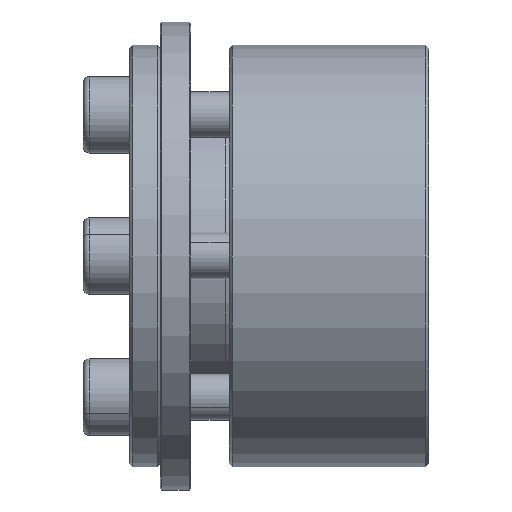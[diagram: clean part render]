
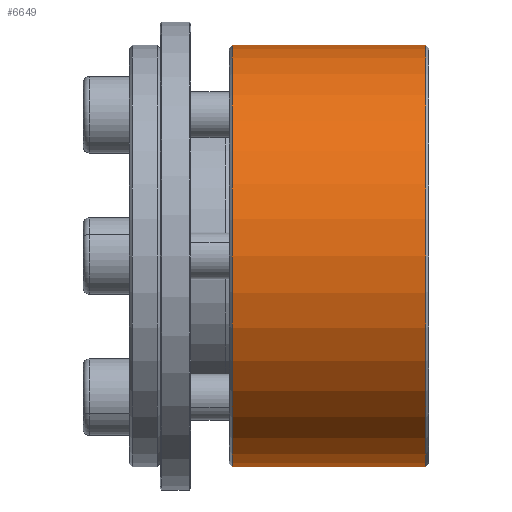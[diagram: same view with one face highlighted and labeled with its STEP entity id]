
A CAD part, front view. The second image highlights one B-rep face of the part: STEP entity #6649.
In plain terms, the highlighted cylindrical face has radius 27.46 mm (diameter 54.92 mm), a partial arc.
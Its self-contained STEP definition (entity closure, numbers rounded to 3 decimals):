
#420 = CARTESIAN_POINT ( 'NONE',  ( -92.366, 26.04, 27.46 ) ) ;
#855 = LINE ( 'NONE', #3658, #6225 ) ;
#1416 = EDGE_CURVE ( 'NONE', #3253, #4748, #2716, .T. ) ;
#1439 = DIRECTION ( 'NONE',  ( 1., 0., 0. ) ) ;
#1558 = EDGE_CURVE ( 'NONE', #4403, #3253, #2747, .T. ) ;
#1939 = ORIENTED_EDGE ( 'NONE', *, *, #6390, .T. ) ;
#2045 = DIRECTION ( 'NONE',  ( 0., 0., 1. ) ) ;
#2094 = ORIENTED_EDGE ( 'NONE', *, *, #1558, .T. ) ;
#2378 = CIRCLE ( 'NONE', #4304, 27.46 ) ;
#2604 = CYLINDRICAL_SURFACE ( 'NONE', #5280, 27.46 ) ;
#2686 = ORIENTED_EDGE ( 'NONE', *, *, #1416, .T. ) ;
#2716 = CIRCLE ( 'NONE', #5376, 27.46 ) ;
#2747 = LINE ( 'NONE', #3431, #4531 ) ;
#3253 = VERTEX_POINT ( 'NONE', #420 ) ;
#3290 = FACE_OUTER_BOUND ( 'NONE', #4275, .T. ) ;
#3431 = CARTESIAN_POINT ( 'NONE',  ( -92.766, 26.04, 27.46 ) ) ;
#3537 = VERTEX_POINT ( 'NONE', #3640 ) ;
#3640 = CARTESIAN_POINT ( 'NONE',  ( -67.166, 26.04, -27.46 ) ) ;
#3658 = CARTESIAN_POINT ( 'NONE',  ( -92.766, 26.04, -27.46 ) ) ;
#3743 = DIRECTION ( 'NONE',  ( 0., 0., -1. ) ) ;
#4130 = CARTESIAN_POINT ( 'NONE',  ( -92.366, 26.04, -27.46 ) ) ;
#4275 = EDGE_LOOP ( 'NONE', ( #5678, #1939, #2094, #2686 ) ) ;
#4304 = AXIS2_PLACEMENT_3D ( 'NONE', #6145, #5574, #6813 ) ;
#4403 = VERTEX_POINT ( 'NONE', #5926 ) ;
#4531 = VECTOR ( 'NONE', #6222, 1000. ) ;
#4748 = VERTEX_POINT ( 'NONE', #4130 ) ;
#4916 = DIRECTION ( 'NONE',  ( -1., 0., 0. ) ) ;
#4979 = CARTESIAN_POINT ( 'NONE',  ( -92.366, 26.04, 0. ) ) ;
#5280 = AXIS2_PLACEMENT_3D ( 'NONE', #5521, #4916, #2045 ) ;
#5376 = AXIS2_PLACEMENT_3D ( 'NONE', #4979, #1439, #3743 ) ;
#5521 = CARTESIAN_POINT ( 'NONE',  ( -92.766, 26.04, 0. ) ) ;
#5574 = DIRECTION ( 'NONE',  ( -1., 0., 0. ) ) ;
#5678 = ORIENTED_EDGE ( 'NONE', *, *, #5756, .F. ) ;
#5756 = EDGE_CURVE ( 'NONE', #3537, #4748, #855, .T. ) ;
#5926 = CARTESIAN_POINT ( 'NONE',  ( -67.166, 26.04, 27.46 ) ) ;
#6145 = CARTESIAN_POINT ( 'NONE',  ( -67.166, 26.04, 0. ) ) ;
#6222 = DIRECTION ( 'NONE',  ( -1., 0., 0. ) ) ;
#6225 = VECTOR ( 'NONE', #7276, 1000. ) ;
#6390 = EDGE_CURVE ( 'NONE', #3537, #4403, #2378, .T. ) ;
#6649 = ADVANCED_FACE ( 'NONE', ( #3290 ), #2604, .T. ) ;
#6813 = DIRECTION ( 'NONE',  ( 0., 0., 1. ) ) ;
#7276 = DIRECTION ( 'NONE',  ( -1., 0., 0. ) ) ;
